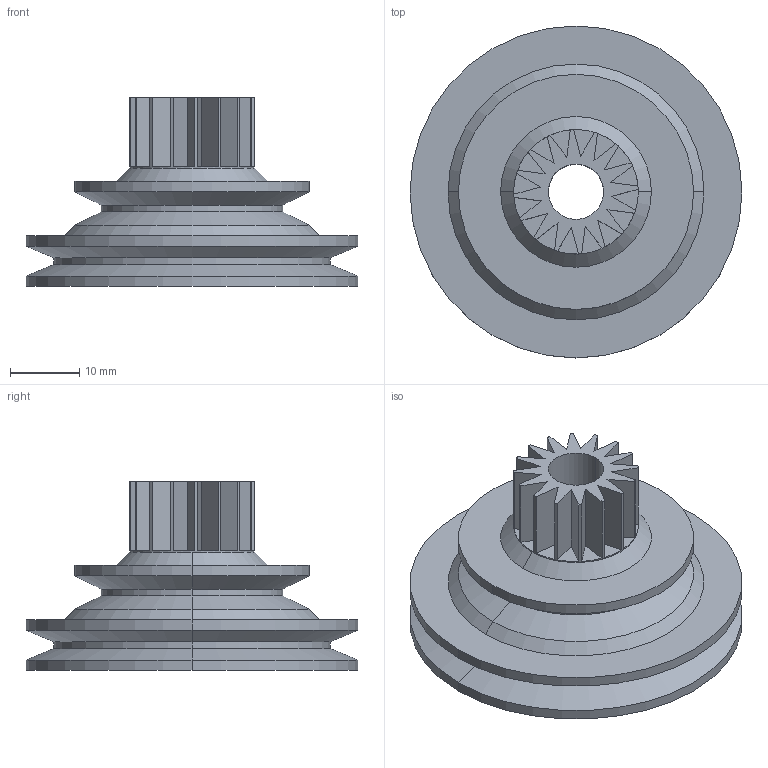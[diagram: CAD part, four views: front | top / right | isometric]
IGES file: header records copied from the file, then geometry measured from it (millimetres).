
Start section:  PTC IGES file: pulleydrivegear.igs
Global section: file name: pulleydrivegear.igs; native system: Creo Parametric by Parametric Technology Corporation; preprocessor: 2012130; author: GOC; organization: Unknown; date: 20141104.224143; units: millimetre
Bounding box: 48 x 48 x 27.31 mm (x, y, z)
Volume: 18798.2 mm3; surface area: 8525 mm2
Topology: 1 solids, 1 shells, 78 faces, 204 edges, 130 vertices
Faces by surface type: bspline 52, revolution 26
